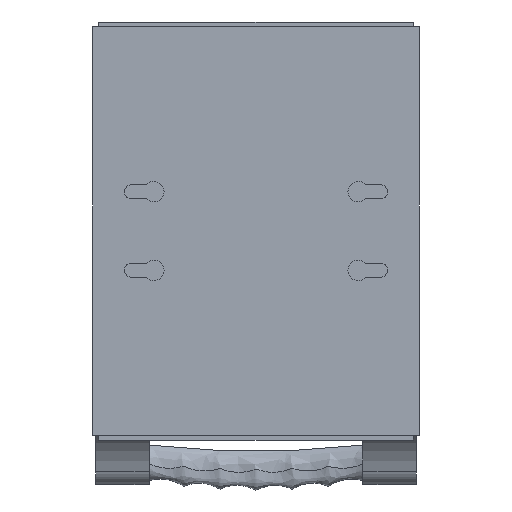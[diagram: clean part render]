
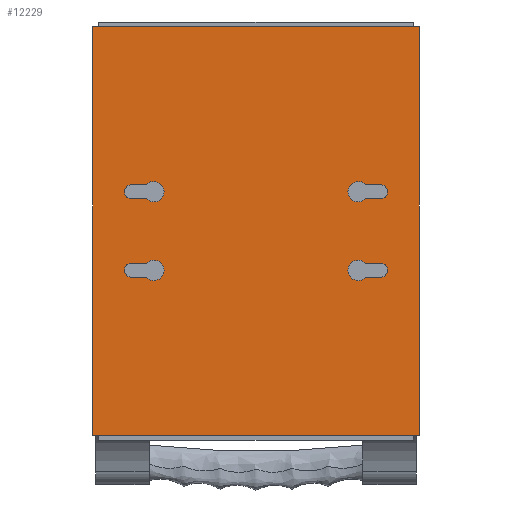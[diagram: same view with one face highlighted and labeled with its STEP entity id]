
A CAD part, front view. The second image highlights one B-rep face of the part: STEP entity #12229.
In plain terms, the highlighted planar face has unit normal (0, -1, 0).
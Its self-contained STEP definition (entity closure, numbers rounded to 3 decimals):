
#9272=PLANE('',#34999);
#11562=FACE_BOUND('',#15152,.T.);
#11563=FACE_BOUND('',#15153,.T.);
#11564=FACE_BOUND('',#15154,.T.);
#11565=FACE_BOUND('',#15155,.T.);
#11566=FACE_BOUND('',#15156,.T.);
#11877=CIRCLE('',#34991,6.5);
#11878=CIRCLE('',#34992,4.5);
#11879=CIRCLE('',#34993,4.5);
#11880=CIRCLE('',#34994,6.5);
#11881=CIRCLE('',#34995,6.5);
#11882=CIRCLE('',#34996,4.5);
#11883=CIRCLE('',#34997,4.5);
#11884=CIRCLE('',#34998,6.5);
#12229=ADVANCED_FACE('',(#11562,#11563,#11564,#11565,#11566),#9272,.F.);
#15152=EDGE_LOOP('',(#20516,#20517,#20518,#20519));
#15153=EDGE_LOOP('',(#20520,#20521,#20522,#20523));
#15154=EDGE_LOOP('',(#20524,#20525,#20526,#20527));
#15155=EDGE_LOOP('',(#20528,#20529,#20530,#20531));
#15156=EDGE_LOOP('',(#20532,#20533,#20534,#20535));
#16694=LINE('',#45899,#18327);
#16717=LINE('',#45961,#18350);
#16887=LINE('',#46340,#18520);
#16888=LINE('',#46342,#18521);
#16889=LINE('',#46344,#18522);
#16890=LINE('',#46349,#18523);
#16891=LINE('',#46352,#18524);
#16892=LINE('',#46357,#18525);
#16893=LINE('',#46360,#18526);
#16894=LINE('',#46365,#18527);
#16895=LINE('',#46368,#18528);
#16896=LINE('',#46373,#18529);
#18327=VECTOR('',#37740,1.);
#18350=VECTOR('',#37785,1.);
#18520=VECTOR('',#38061,1.);
#18521=VECTOR('',#38064,1.);
#18522=VECTOR('',#38067,1.);
#18523=VECTOR('',#38070,1.);
#18524=VECTOR('',#38073,1.);
#18525=VECTOR('',#38076,1.);
#18526=VECTOR('',#38079,1.);
#18527=VECTOR('',#38082,1.);
#18528=VECTOR('',#38085,1.);
#18529=VECTOR('',#38088,1.);
#20516=ORIENTED_EDGE('',*,*,#30713,.F.);
#20517=ORIENTED_EDGE('',*,*,#30485,.F.);
#20518=ORIENTED_EDGE('',*,*,#30712,.F.);
#20519=ORIENTED_EDGE('',*,*,#30518,.F.);
#20520=ORIENTED_EDGE('',*,*,#30714,.F.);
#20521=ORIENTED_EDGE('',*,*,#30715,.F.);
#20522=ORIENTED_EDGE('',*,*,#30716,.F.);
#20523=ORIENTED_EDGE('',*,*,#30717,.F.);
#20524=ORIENTED_EDGE('',*,*,#30718,.F.);
#20525=ORIENTED_EDGE('',*,*,#30719,.F.);
#20526=ORIENTED_EDGE('',*,*,#30720,.F.);
#20527=ORIENTED_EDGE('',*,*,#30721,.F.);
#20528=ORIENTED_EDGE('',*,*,#30722,.F.);
#20529=ORIENTED_EDGE('',*,*,#30723,.F.);
#20530=ORIENTED_EDGE('',*,*,#30724,.F.);
#20531=ORIENTED_EDGE('',*,*,#30725,.F.);
#20532=ORIENTED_EDGE('',*,*,#30726,.F.);
#20533=ORIENTED_EDGE('',*,*,#30727,.F.);
#20534=ORIENTED_EDGE('',*,*,#30728,.F.);
#20535=ORIENTED_EDGE('',*,*,#30729,.F.);
#27916=VERTEX_POINT('',#45900);
#27917=VERTEX_POINT('',#45901);
#27944=VERTEX_POINT('',#45962);
#27945=VERTEX_POINT('',#45963);
#28100=VERTEX_POINT('',#46345);
#28101=VERTEX_POINT('',#46346);
#28102=VERTEX_POINT('',#46348);
#28103=VERTEX_POINT('',#46350);
#28104=VERTEX_POINT('',#46353);
#28105=VERTEX_POINT('',#46354);
#28106=VERTEX_POINT('',#46356);
#28107=VERTEX_POINT('',#46358);
#28108=VERTEX_POINT('',#46361);
#28109=VERTEX_POINT('',#46362);
#28110=VERTEX_POINT('',#46364);
#28111=VERTEX_POINT('',#46366);
#28112=VERTEX_POINT('',#46369);
#28113=VERTEX_POINT('',#46370);
#28114=VERTEX_POINT('',#46372);
#28115=VERTEX_POINT('',#46374);
#30485=EDGE_CURVE('',#27916,#27917,#16694,.T.);
#30518=EDGE_CURVE('',#27944,#27945,#16717,.T.);
#30712=EDGE_CURVE('',#27945,#27916,#16887,.T.);
#30713=EDGE_CURVE('',#27917,#27944,#16888,.T.);
#30714=EDGE_CURVE('',#28100,#28101,#16889,.T.);
#30715=EDGE_CURVE('',#28102,#28100,#11877,.T.);
#30716=EDGE_CURVE('',#28103,#28102,#16890,.T.);
#30717=EDGE_CURVE('',#28101,#28103,#11878,.T.);
#30718=EDGE_CURVE('',#28104,#28105,#16891,.T.);
#30719=EDGE_CURVE('',#28106,#28104,#11879,.T.);
#30720=EDGE_CURVE('',#28107,#28106,#16892,.T.);
#30721=EDGE_CURVE('',#28105,#28107,#11880,.T.);
#30722=EDGE_CURVE('',#28108,#28109,#16893,.T.);
#30723=EDGE_CURVE('',#28110,#28108,#11881,.T.);
#30724=EDGE_CURVE('',#28111,#28110,#16894,.T.);
#30725=EDGE_CURVE('',#28109,#28111,#11882,.T.);
#30726=EDGE_CURVE('',#28112,#28113,#16895,.T.);
#30727=EDGE_CURVE('',#28114,#28112,#11883,.T.);
#30728=EDGE_CURVE('',#28115,#28114,#16896,.T.);
#30729=EDGE_CURVE('',#28113,#28115,#11884,.T.);
#34991=AXIS2_PLACEMENT_3D('',#46347,#38068,#38069);
#34992=AXIS2_PLACEMENT_3D('',#46351,#38071,#38072);
#34993=AXIS2_PLACEMENT_3D('',#46355,#38074,#38075);
#34994=AXIS2_PLACEMENT_3D('',#46359,#38077,#38078);
#34995=AXIS2_PLACEMENT_3D('',#46363,#38080,#38081);
#34996=AXIS2_PLACEMENT_3D('',#46367,#38083,#38084);
#34997=AXIS2_PLACEMENT_3D('',#46371,#38086,#38087);
#34998=AXIS2_PLACEMENT_3D('',#46375,#38089,#38090);
#34999=AXIS2_PLACEMENT_3D('',#46376,#38091,#38092);
#37740=DIRECTION('',(-1.,0.,0.));
#37785=DIRECTION('',(1.,0.,0.));
#38061=DIRECTION('',(0.,0.,-1.));
#38064=DIRECTION('',(0.,0.,1.));
#38067=DIRECTION('',(1.,0.,0.));
#38068=DIRECTION('',(0.,-1.,0.));
#38069=DIRECTION('',(0.,0.,-1.));
#38070=DIRECTION('',(-1.,0.,0.));
#38071=DIRECTION('',(0.,-1.,0.));
#38072=DIRECTION('',(0.,0.,-1.));
#38073=DIRECTION('',(-1.,0.,0.));
#38074=DIRECTION('',(0.,-1.,0.));
#38075=DIRECTION('',(0.,0.,1.));
#38076=DIRECTION('',(1.,0.,0.));
#38077=DIRECTION('',(0.,-1.,0.));
#38078=DIRECTION('',(0.,0.,1.));
#38079=DIRECTION('',(-1.,0.,0.));
#38080=DIRECTION('',(0.,-1.,0.));
#38081=DIRECTION('',(0.,0.,-1.));
#38082=DIRECTION('',(1.,0.,0.));
#38083=DIRECTION('',(0.,-1.,0.));
#38084=DIRECTION('',(0.,0.,-1.));
#38085=DIRECTION('',(1.,0.,0.));
#38086=DIRECTION('',(0.,-1.,0.));
#38087=DIRECTION('',(0.,0.,1.));
#38088=DIRECTION('',(-1.,0.,0.));
#38089=DIRECTION('',(0.,-1.,0.));
#38090=DIRECTION('',(0.,0.,1.));
#38091=DIRECTION('',(0.,1.,0.));
#38092=DIRECTION('',(0.,0.,1.));
#45899=CARTESIAN_POINT('',(-104.,-84.,-86.076));
#45900=CARTESIAN_POINT('',(104.,-84.,-86.076));
#45901=CARTESIAN_POINT('',(-104.,-84.,-86.076));
#45961=CARTESIAN_POINT('',(-104.,-84.,173.924));
#45962=CARTESIAN_POINT('',(-104.,-84.,173.924));
#45963=CARTESIAN_POINT('',(104.,-84.,173.924));
#46340=CARTESIAN_POINT('',(104.,-84.,173.924));
#46342=CARTESIAN_POINT('',(-104.,-84.,173.924));
#46344=CARTESIAN_POINT('',(79.25,-84.,14.424));
#46345=CARTESIAN_POINT('',(69.69,-84.,14.424));
#46346=CARTESIAN_POINT('',(79.25,-84.,14.424));
#46347=CARTESIAN_POINT('',(65.,-84.,18.924));
#46348=CARTESIAN_POINT('',(69.69,-84.,23.424));
#46349=CARTESIAN_POINT('',(79.25,-84.,23.424));
#46350=CARTESIAN_POINT('',(79.25,-84.,23.424));
#46351=CARTESIAN_POINT('',(79.25,-84.,18.924));
#46352=CARTESIAN_POINT('',(79.25,-84.,73.424));
#46353=CARTESIAN_POINT('',(79.25,-84.,73.424));
#46354=CARTESIAN_POINT('',(69.69,-84.,73.424));
#46355=CARTESIAN_POINT('',(79.25,-84.,68.924));
#46356=CARTESIAN_POINT('',(79.25,-84.,64.424));
#46357=CARTESIAN_POINT('',(79.25,-84.,64.424));
#46358=CARTESIAN_POINT('',(69.69,-84.,64.424));
#46359=CARTESIAN_POINT('',(65.,-84.,68.924));
#46360=CARTESIAN_POINT('',(-79.25,-84.,73.424));
#46361=CARTESIAN_POINT('',(-69.69,-84.,73.424));
#46362=CARTESIAN_POINT('',(-79.25,-84.,73.424));
#46363=CARTESIAN_POINT('',(-65.,-84.,68.924));
#46364=CARTESIAN_POINT('',(-69.69,-84.,64.424));
#46365=CARTESIAN_POINT('',(-79.25,-84.,64.424));
#46366=CARTESIAN_POINT('',(-79.25,-84.,64.424));
#46367=CARTESIAN_POINT('',(-79.25,-84.,68.924));
#46368=CARTESIAN_POINT('',(-79.25,-84.,14.424));
#46369=CARTESIAN_POINT('',(-79.25,-84.,14.424));
#46370=CARTESIAN_POINT('',(-69.69,-84.,14.424));
#46371=CARTESIAN_POINT('',(-79.25,-84.,18.924));
#46372=CARTESIAN_POINT('',(-79.25,-84.,23.424));
#46373=CARTESIAN_POINT('',(-79.25,-84.,23.424));
#46374=CARTESIAN_POINT('',(-69.69,-84.,23.424));
#46375=CARTESIAN_POINT('',(-65.,-84.,18.924));
#46376=CARTESIAN_POINT('',(104.,-84.,173.924));
